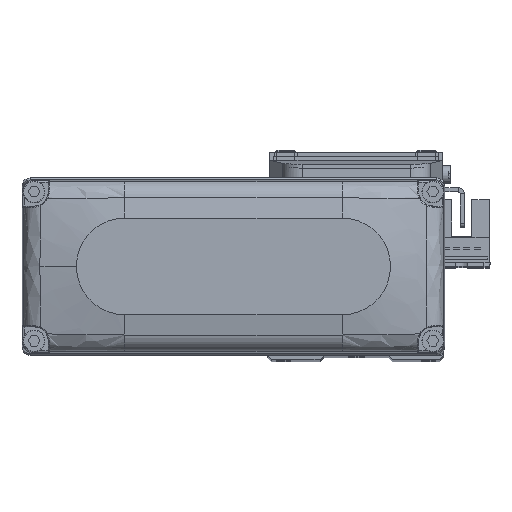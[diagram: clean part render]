
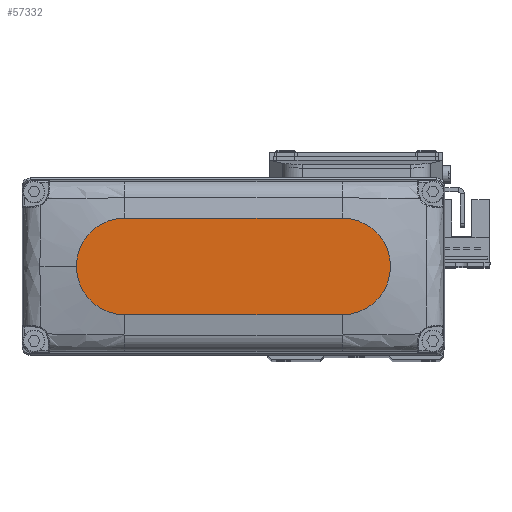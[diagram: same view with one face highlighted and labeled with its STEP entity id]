
A CAD part, top view. The second image highlights one B-rep face of the part: STEP entity #57332.
In plain terms, the highlighted planar face has unit normal (0, 0, 1).
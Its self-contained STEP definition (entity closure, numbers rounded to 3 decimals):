
#80 = DIRECTION ( 'NONE',  ( 0., 0., 1. ) ) ;
#243 = EDGE_CURVE ( 'NONE', #7655, #41599, #77264, .T. ) ;
#2009 = CARTESIAN_POINT ( 'NONE',  ( 39., 0., 25. ) ) ;
#2737 = EDGE_LOOP ( 'NONE', ( #17433, #18407, #49811, #14534, #42453 ) ) ;
#5427 = DIRECTION ( 'NONE',  ( 0., 0., 1. ) ) ;
#7655 = VERTEX_POINT ( 'NONE', #34654 ) ;
#8219 = AXIS2_PLACEMENT_3D ( 'NONE', #15456, #39433, #63404 ) ;
#9479 = AXIS2_PLACEMENT_3D ( 'NONE', #65495, #11667, #35645 ) ;
#11667 = DIRECTION ( 'NONE',  ( 0., 0., 1. ) ) ;
#11937 = LINE ( 'NONE', #35910, #29020 ) ;
#14067 = VERTEX_POINT ( 'NONE', #28158 ) ;
#14534 = ORIENTED_EDGE ( 'NONE', *, *, #52694, .T. ) ;
#15456 = CARTESIAN_POINT ( 'NONE',  ( 0., 0., 25. ) ) ;
#16115 = AXIS2_PLACEMENT_3D ( 'NONE', #59287, #5427, #29409 ) ;
#17433 = ORIENTED_EDGE ( 'NONE', *, *, #22055, .T. ) ;
#18407 = ORIENTED_EDGE ( 'NONE', *, *, #25083, .T. ) ;
#20608 = CARTESIAN_POINT ( 'NONE',  ( 27., 12., 25. ) ) ;
#22055 = EDGE_CURVE ( 'NONE', #34670, #14067, #11937, .T. ) ;
#23377 = CARTESIAN_POINT ( 'NONE',  ( -27., -12., 25. ) ) ;
#24040 = DIRECTION ( 'NONE',  ( 1., 0., 0. ) ) ;
#25083 = EDGE_CURVE ( 'NONE', #14067, #7655, #31962, .T. ) ;
#28158 = CARTESIAN_POINT ( 'NONE',  ( -27., 12., 25. ) ) ;
#29020 = VECTOR ( 'NONE', #59881, 1000. ) ;
#29409 = DIRECTION ( 'NONE',  ( 1., 0., 0. ) ) ;
#30027 = CARTESIAN_POINT ( 'NONE',  ( 27., -12., 25. ) ) ;
#31142 = VERTEX_POINT ( 'NONE', #2009 ) ;
#31962 = CIRCLE ( 'NONE', #75901, 12. ) ;
#34654 = CARTESIAN_POINT ( 'NONE',  ( -27., -12., 25. ) ) ;
#34670 = VERTEX_POINT ( 'NONE', #20608 ) ;
#35645 = DIRECTION ( 'NONE',  ( 1., 0., 0. ) ) ;
#35910 = CARTESIAN_POINT ( 'NONE',  ( -27., 12., 25. ) ) ;
#39433 = DIRECTION ( 'NONE',  ( 0., 0., 1. ) ) ;
#39500 = EDGE_CURVE ( 'NONE', #31142, #34670, #39967, .T. ) ;
#39967 = CIRCLE ( 'NONE', #16115, 12. ) ;
#41599 = VERTEX_POINT ( 'NONE', #30027 ) ;
#42453 = ORIENTED_EDGE ( 'NONE', *, *, #39500, .T. ) ;
#43375 = CIRCLE ( 'NONE', #9479, 12. ) ;
#45311 = FACE_OUTER_BOUND ( 'NONE', #2737, .T. ) ;
#48463 = DIRECTION ( 'NONE',  ( 1., 0., 0. ) ) ;
#49811 = ORIENTED_EDGE ( 'NONE', *, *, #243, .T. ) ;
#52694 = EDGE_CURVE ( 'NONE', #41599, #31142, #43375, .T. ) ;
#53943 = CARTESIAN_POINT ( 'NONE',  ( -27., 0., 25. ) ) ;
#57332 = ADVANCED_FACE ( 'NONE', ( #45311 ), #69275, .T. ) ;
#59287 = CARTESIAN_POINT ( 'NONE',  ( 27., 0., 25. ) ) ;
#59881 = DIRECTION ( 'NONE',  ( -1., 0., 0. ) ) ;
#63404 = DIRECTION ( 'NONE',  ( 1., 0., 0. ) ) ;
#65495 = CARTESIAN_POINT ( 'NONE',  ( 27., 0., 25. ) ) ;
#69275 = PLANE ( 'NONE',  #8219 ) ;
#73012 = VECTOR ( 'NONE', #48463, 1000. ) ;
#75901 = AXIS2_PLACEMENT_3D ( 'NONE', #53943, #80, #24040 ) ;
#77264 = LINE ( 'NONE', #23377, #73012 ) ;
